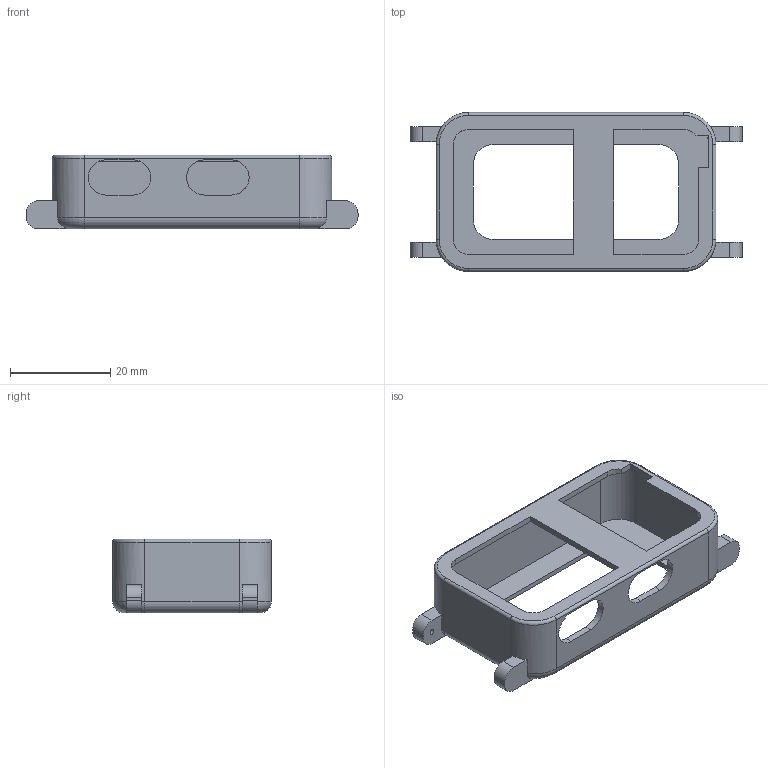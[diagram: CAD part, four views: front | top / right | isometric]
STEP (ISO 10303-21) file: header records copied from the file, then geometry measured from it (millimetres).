
FILE_DESCRIPTION(('Open CASCADE Model'),'2;1');
FILE_NAME('Open CASCADE Shape Model','2026-11-03T19:16:51',('Author'),( 'Open CASCADE'),'Open CASCADE STEP processor 7.9','Open CASCADE 7.9' ,'Unknown');
FILE_SCHEMA(('AUTOMOTIVE_DESIGN { 1 0 10303 214 1 1 1 1 }'));
Length unit declared in the file: millimetre
Products named in the file (1): Open CASCADE STEP translator 7.9 3
Bounding box: 66.2 x 31.7 x 14.7 mm (x, y, z)
Volume: 4567.7 mm3; surface area: 7570.7 mm2
Topology: 1 solids, 1 shells, 109 faces, 296 edges, 192 vertices
Faces by surface type: plane 57, cylinder 40, torus 12
Full cylindrical faces by diameter (mm): 1.1 x4
Entity records: 7766 total; most frequent: CARTESIAN_POINT 1966, DIRECTION 1054, ORIENTED_EDGE 592, PCURVE 592, DEFINITIONAL_REPRESENTATION 592, LINE 560, VECTOR 560, EDGE_CURVE 296
